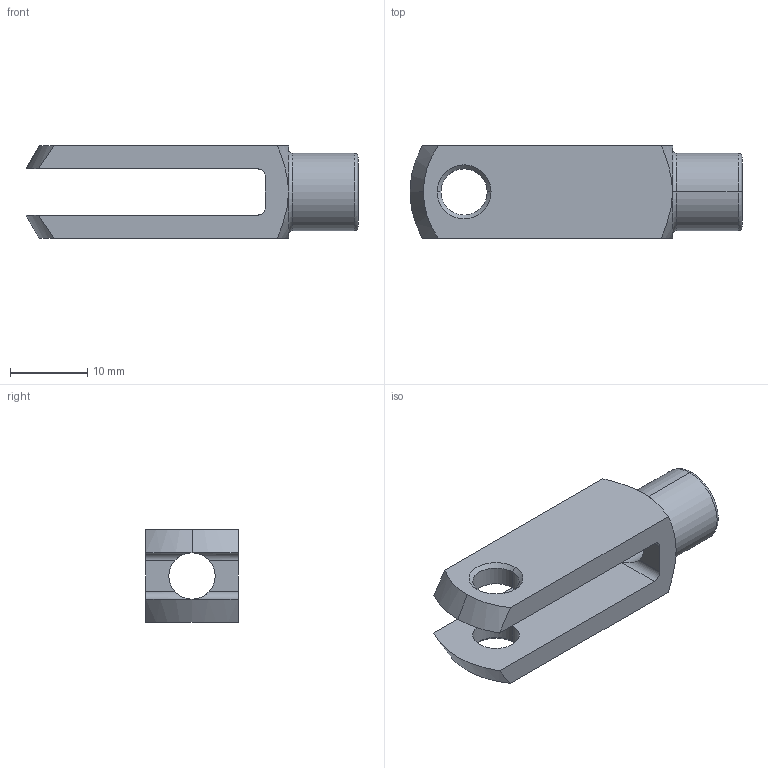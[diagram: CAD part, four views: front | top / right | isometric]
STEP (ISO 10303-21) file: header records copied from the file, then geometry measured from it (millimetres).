
FILE_DESCRIPTION (( 'STEP AP203' ), '1' );
FILE_NAME ('65635.W0062.step', '2014-01-17T13:04:12', ( 'User' ), ( '' ), 'SwSTEP 2.0', 'SolidWorks 2009', '' );
FILE_SCHEMA (( 'CONFIG_CONTROL_DESIGN' ));
Length unit declared in the file: millimetre
Products named in the file (1): 65635.W0062
Bounding box: 43 x 12 x 12 mm (x, y, z)
Volume: 2742.2 mm3; surface area: 2603.8 mm2
Topology: 1 solids, 1 shells, 39 faces, 93 edges, 56 vertices
Faces by surface type: cone 13, cylinder 12, plane 10, torus 4
Entity records: 1288 total; most frequent: CARTESIAN_POINT 293, DIRECTION 201, ORIENTED_EDGE 186, EDGE_CURVE 93, AXIS2_PLACEMENT_3D 84, VERTEX_POINT 56, EDGE_LOOP 45, CIRCLE 44
